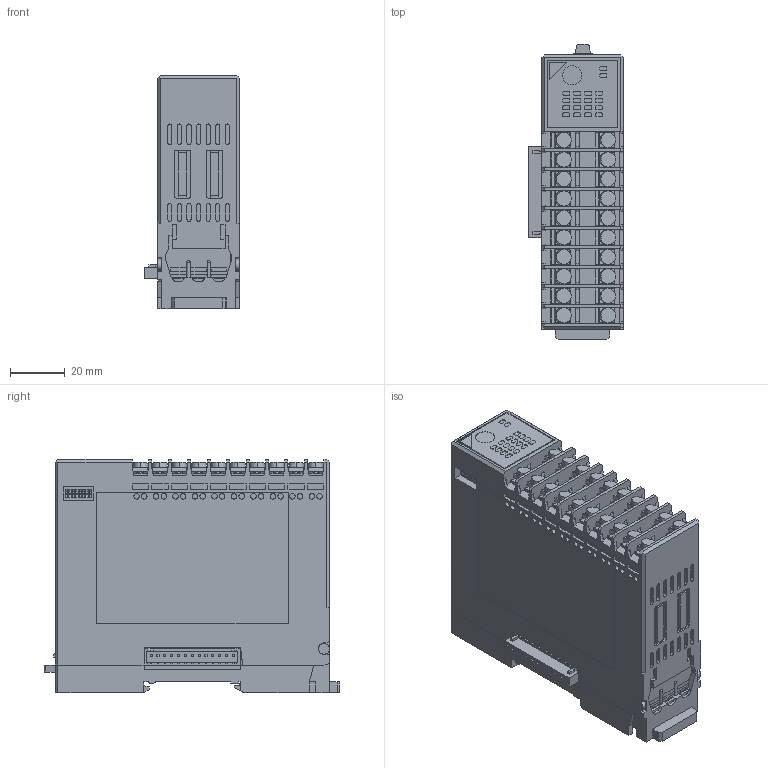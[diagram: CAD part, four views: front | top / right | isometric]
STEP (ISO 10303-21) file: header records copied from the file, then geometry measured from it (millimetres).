
FILE_DESCRIPTION (( 'STEP AP203' ), '1' );
FILE_NAME ('AS_QPM1-PI16仩仩T_260616.STEP', '2026-06-16T06:49:03', ( '' ), ( '' ), 'SwSTEP 2.0', 'SolidWorks 2025', '' );
FILE_SCHEMA (( 'CONFIG_CONTROL_DESIGN' ));
Length unit declared in the file: millimetre
Products named in the file (1): AS_QPM1-PI16□□T_260616
Bounding box: 34.6 x 107.8 x 85.1 mm (x, y, z)
Volume: 238041.2 mm3; surface area: 51006.3 mm2
Topology: 23 solids, 23 shells, 2063 faces, 5244 edges, 3470 vertices
Faces by surface type: plane 1614, cylinder 445, torus 4
Entity records: 61609 total; most frequent: CARTESIAN_POINT 10874, ORIENTED_EDGE 10488, DIRECTION 10178, EDGE_CURVE 5244, VECTOR 4374, LINE 4374, VERTEX_POINT 3470, AXIS2_PLACEMENT_3D 2902
